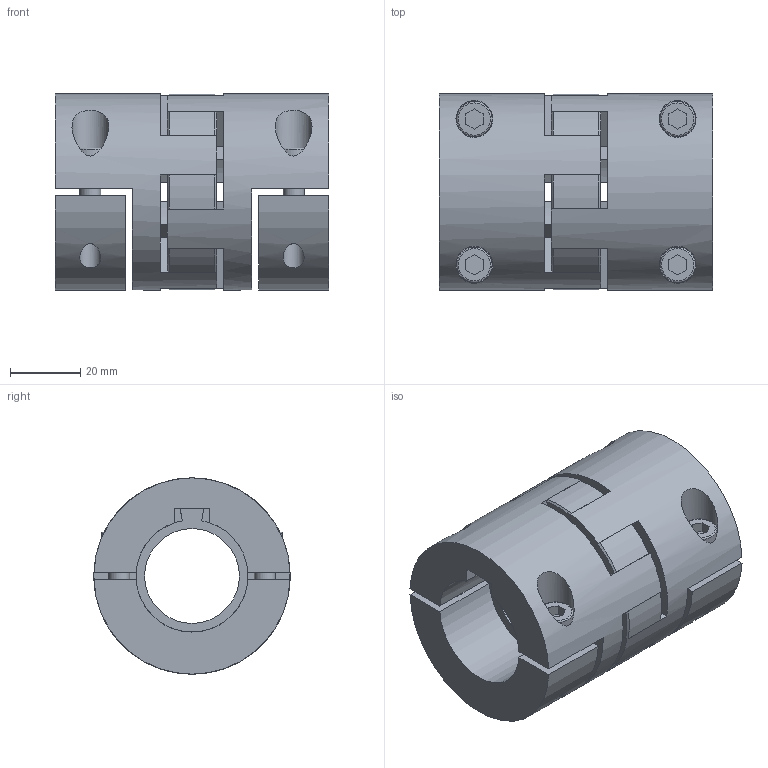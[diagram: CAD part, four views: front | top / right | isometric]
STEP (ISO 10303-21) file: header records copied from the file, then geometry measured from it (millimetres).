
FILE_DESCRIPTION(/* description */ ('STEP AP214'),/* implementation_level */ '2;1');
FILE_NAME(/* name */ 'C:\Diequa Files\DieQua Coupling\ECS\STP\ECS.60.ABC.#.#.stp',/* time_stamp */ '2018-12-07T11:45:15-06:00',/* author */ ('DiequaCAD'),/* organization */ (''),/* preprocessor_version */ 'ST-DEVELOPER v17.2',/* originating_system */ 'Autodesk Inventor 2019',/* authorisation */ ' ');
FILE_SCHEMA (('AUTOMOTIVE_DESIGN { 1 0 10303 214 3 1 1 }'));
Length unit declared in the file: millimetre
Products named in the file (4): EKH_60_A_32_PFN_32_PFN_49; 2018_11_29__15-58-28-804; 2018_11_29__15-58-28-804_1; 2018_11_29__15-58-28-804_2
Assembly tree (3 placements, depth 2):
  EKH_60_A_32_PFN_32_PFN_49
    2018_11_29__15-58-28-804
    2018_11_29__15-58-28-804_1
    2018_11_29__15-58-28-804_2
Bounding box: 78 x 56 x 56 mm (x, y, z)
Volume: 117418.3 mm3; surface area: 44446.5 mm2
Topology: 3 solids, 3 shells, 183 faces, 511 edges, 354 vertices
Faces by surface type: plane 118, cylinder 45, cone 16, torus 4
Full cylindrical faces by diameter (mm): 6 x8, 6.5 x4, 10 x4, 10.5 x4, 27 x1, 56 x2
Entity records: 6433 total; most frequent: CARTESIAN_POINT 1359, DIRECTION 1059, ORIENTED_EDGE 1022, EDGE_CURVE 511, AXIS2_PLACEMENT_3D 374, VERTEX_POINT 354, LINE 311, VECTOR 311
